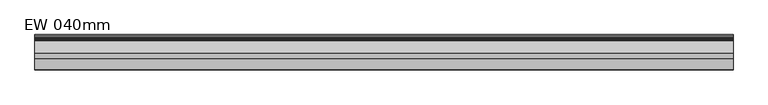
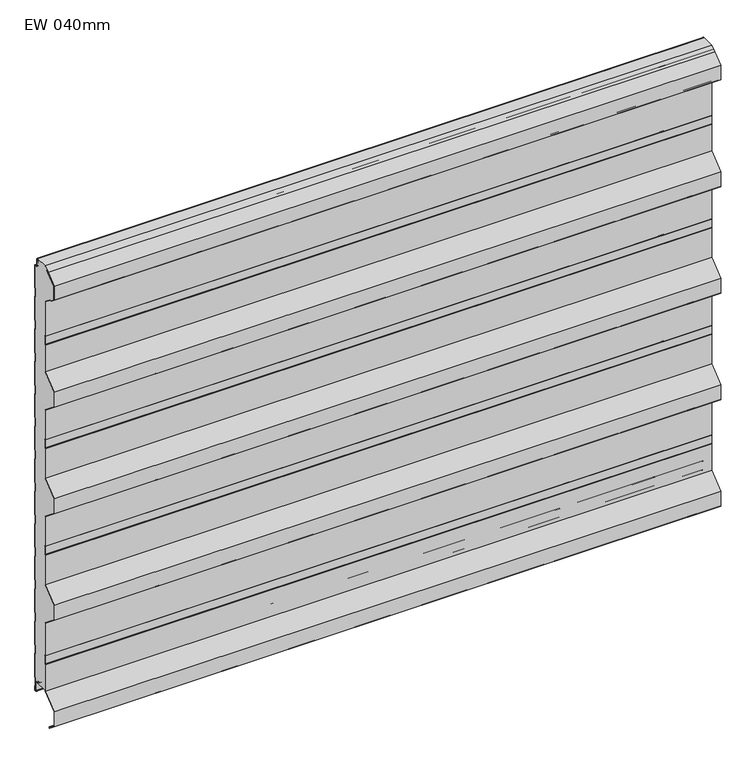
"""IFC4 building model written with IfcOpenShell, lengths in millimetres: plate geometry, KIP-MEX-KC-R19-CP-EW-SL : EW 040mm."""

from ifc_helpers import new_model, si_unit, point, frame, frame_2d, origin, place, context, project, spatial, polyline, circle_curve, trimmed, segment, composite_curve, outline, extrude, source, transform, mapped, element, save
from ifc_brep_helpers import plane_surface, cylinder_surface, revolved_surface, advanced_brep


def ew_040mm_b991c328(model_context):
    return source(origin(), model_context, "Body", "SolidModel", [
        advanced_brep(
        [(-740.0, -50.0327477, 989.051258), (-740.0, -45.6292245, 991.4166419), (-740.0, -46.1011177, 992.2982989), (-740.0, -50.5823669, 989.8911639), (-740.0, -39.7971296, 998.3652789), (-740.0, -11.2514375, 998.3666923), (-740.0, -13.6351997, 996.0840542), (-740.0, -14.1562355, 990.2938452), (-740.0, -13.178913, 990.2059002), (-740.0, -12.6629632, 995.9395891), (-740.0, -10.8760369, 997.3642752), (-740.0, -8.8936988, 995.9342793), (-740.0, -7.4885937, 979.8720443), (-740.0, -4.5000049, 977.1334803), (-740.0, -1.0, 977.1334803), (-740.0, -1.0, 924.1786391), (-740.0, -2.2002307, 922.7930062), (-740.0, -2.2002307, 903.4178399), (-740.0, -1.0, 902.0322069), (-740.0, -1.0, 847.9787915), (-740.0, -2.2002307, 846.5931586), (-740.0, -2.2002307, 827.2179923), (-740.0, -1.0, 825.8323593), (-740.0, -1.0, 771.7789439), (-740.0, -2.2002307, 770.393311), (-740.0, -2.2002307, 751.0181447), (-740.0, -1.0, 749.6325117), (-740.0, -1.0, 695.5790963), (-740.0, -2.2002307, 694.1934634), (-740.0, -2.2002307, 674.8182971), (-740.0, -1.0, 673.4326641), (-740.0, -1.0, 619.3792487), (-740.0, -2.2002307, 617.9936158), (-740.0, -2.2002307, 598.6184495), (-740.0, -1.0, 597.2328165), (-740.0, -1.0, 543.1794011), (-740.0, -2.2002307, 541.7937682), (-740.0, -2.2002307, 522.4186019), (-740.0, -1.0, 521.0329689), (-740.0, -1.0, 466.9795535), (-740.0, -2.2002307, 465.5939206), (-740.0, -2.2002307, 446.2187543), (-740.0, -1.0, 444.8331213), (-740.0, -1.0, 390.7797059), (-740.0, -2.2002307, 389.394073), (-740.0, -2.2002307, 370.0189067), (-740.0, -1.0, 368.6332737), (-740.0, -1.0, 314.5798583), (-740.0, -2.2002307, 313.1942254), (-740.0, -2.2002307, 293.8190591), (-740.0, -1.0, 292.4334261), (-740.0, -1.0, 238.3800107), (-740.0, -2.2002307, 236.9943778), (-740.0, -2.2002307, 217.6192115), (-740.0, -1.0, 216.2335785), (-740.0, -1.0, 162.1801631), (-740.0, -2.2002307, 160.7945302), (-740.0, -2.2002307, 141.4193639), (-740.0, -1.0, 140.0337309), (-740.0, -1.0, 85.9803155), (-740.0, -2.2002307, 84.5946826), (-740.0, -2.2002307, 65.2195163), (-740.0, -1.0, 63.8338833), (-740.0, -1.0, 9.7804679), (-740.0, -2.2002307, 8.394835), (-740.0, -2.2002307, -10.9803313), (-740.0, -0.9999916, -12.365974), (-740.0, -0.9999916, -20.8675386), (-740.0, -2.4999198, -20.8675386), (-740.0, -4.9998241, -18.3676343), (-740.0, -4.9998241, -0.3670493), (-740.0, -7.998082, 2.6333088), (-740.0, -11.5943952, 2.6333088), (-740.0, -13.0725686, 3.8746028), (-740.0, -13.6943971, 7.4169376), (-740.0, -14.6793372, 7.2440392), (-740.0, -14.0575086, 3.7017037), (-740.0, -11.5958694, 1.6333077), (-740.0, -39.0, 1.6333077), (-740.0, -39.0, 62.1559418), (-740.0, -37.9999989, 63.5702249), (-740.0, -37.9999989, 82.7777465), (-740.0, -39.0, 84.1920296), (-740.0, -39.0, 160.6910066), (-740.0, -74.000038, 188.1910365), (-740.0, -74.000038, 222.2190039), (-740.0, -39.0, 249.7190337), (-740.0, -39.0, 319.1871119), (-740.0, -37.9999989, 320.601395), (-740.0, -37.9999989, 339.8089167), (-740.0, -39.0, 341.2231997), (-740.0, -39.0, 410.6912779), (-740.0, -74.000038, 438.1913078), (-740.0, -74.000038, 472.2192752), (-740.0, -39.0, 499.719305), (-740.0, -39.0, 569.1090864), (-740.0, -37.9999989, 570.1732653), (-740.0, -37.9999989, 589.809188), (-740.0, -39.0, 591.2234711), (-740.0, -39.0, 660.6915492), (-740.0, -74.000038, 688.1915791), (-740.0, -74.000038, 722.2195465), (-740.0, -39.0, 749.7195763), (-740.0, -39.0, 812.1567557), (-740.0, -37.9999989, 813.5710388), (-740.0, -37.9999989, 832.7785605), (-740.0, -39.0, 834.1928435), (-740.0, -39.0, 914.6918249), (-740.0, -59.3814311, 930.7058064), (-740.0, -63.199617, 930.7058064), (-740.0, -73.0000369, 938.4061363), (-740.0, -73.0000369, 971.0055308), (740.0, -50.0327477, 989.051258), (740.0, -73.0000369, 971.0055308), (740.0, -73.0000369, 938.4061363), (740.0, -63.199617, 930.7058064), (740.0, -59.3814311, 930.7058064), (740.0, -39.0, 914.6918249), (740.0, -39.0, 834.1928435), (740.0, -37.9999989, 832.7785605), (740.0, -37.9999989, 813.5710388), (740.0, -39.0, 812.1567557), (740.0, -39.0, 749.7195763), (740.0, -74.000038, 722.2195465), (740.0, -74.000038, 688.1915791), (740.0, -39.0, 660.6915492), (740.0, -39.0, 591.2234711), (740.0, -37.9999989, 589.809188), (740.0, -37.9999989, 570.1732653), (740.0, -39.0, 569.1090864), (740.0, -39.0, 499.719305), (740.0, -74.000038, 472.2192752), (740.0, -74.000038, 438.1913078), (740.0, -39.0, 410.6912779), (740.0, -39.0, 341.2231997), (740.0, -37.9999989, 339.8089167), (740.0, -37.9999989, 320.601395), (740.0, -39.0, 319.1871119), (740.0, -39.0, 249.7190337), (740.0, -74.000038, 222.2190039), (740.0, -74.000038, 188.1910365), (740.0, -39.0, 160.6910066), (740.0, -39.0, 84.1920296), (740.0, -37.9999989, 82.7777465), (740.0, -37.9999989, 63.5702249), (740.0, -39.0, 62.1559418), (740.0, -39.0, 1.6333077), (740.0, -11.5958694, 1.6333077), (740.0, -14.0575086, 3.7017037), (740.0, -14.6793372, 7.2440392), (740.0, -13.6943971, 7.4169376), (740.0, -13.0725686, 3.8746028), (740.0, -11.5943952, 2.6333088), (740.0, -7.998082, 2.6333088), (740.0, -4.9998241, -0.3670493), (740.0, -4.9998241, -18.3676343), (740.0, -2.4999198, -20.8675386), (740.0, -0.9999916, -20.8675386), (740.0, -0.9999916, -12.365974), (740.0, -2.2002307, -10.9803313), (740.0, -2.2002307, 8.394835), (740.0, -1.0, 9.7804679), (740.0, -1.0, 63.8338833), (740.0, -2.2002307, 65.2195163), (740.0, -2.2002307, 84.5946826), (740.0, -1.0, 85.9803155), (740.0, -1.0, 140.0337309), (740.0, -2.2002307, 141.4193639), (740.0, -2.2002307, 160.7945302), (740.0, -1.0, 162.1801631), (740.0, -1.0, 216.2335785), (740.0, -2.2002307, 217.6192115), (740.0, -2.2002307, 236.9943778), (740.0, -1.0, 238.3800107), (740.0, -1.0, 292.4334261), (740.0, -2.2002307, 293.8190591), (740.0, -2.2002307, 313.1942254), (740.0, -1.0, 314.5798583), (740.0, -1.0, 368.6332737), (740.0, -2.2002307, 370.0189067), (740.0, -2.2002307, 389.394073), (740.0, -1.0, 390.7797059), (740.0, -1.0, 444.8331213), (740.0, -2.2002307, 446.2187543), (740.0, -2.2002307, 465.5939206), (740.0, -1.0, 466.9795535), (740.0, -1.0, 521.0329689), (740.0, -2.2002307, 522.4186019), (740.0, -2.2002307, 541.7937682), (740.0, -1.0, 543.1794011), (740.0, -1.0, 597.2328165), (740.0, -2.2002307, 598.6184495), (740.0, -2.2002307, 617.9936158), (740.0, -1.0, 619.3792487), (740.0, -1.0, 673.4326641), (740.0, -2.2002307, 674.8182971), (740.0, -2.2002307, 694.1934634), (740.0, -1.0, 695.5790963), (740.0, -1.0, 749.6325117), (740.0, -2.2002307, 751.0181447), (740.0, -2.2002307, 770.393311), (740.0, -1.0, 771.7789439), (740.0, -1.0, 825.8323593), (740.0, -2.2002307, 827.2179923), (740.0, -2.2002307, 846.5931586), (740.0, -1.0, 847.9787915), (740.0, -1.0, 902.0322069), (740.0, -2.2002307, 903.4178399), (740.0, -2.2002307, 922.7930062), (740.0, -1.0, 924.1786391), (740.0, -1.0, 977.1334803), (740.0, -4.5000049, 977.1334803), (740.0, -7.4885937, 979.8720443), (740.0, -8.8936988, 995.9342793), (740.0, -10.8760369, 997.3642752), (740.0, -12.6629632, 995.9395891), (740.0, -13.178913, 990.2059002), (740.0, -14.1562355, 990.2938452), (740.0, -13.6351997, 996.0840542), (740.0, -11.2514375, 998.3666923), (740.0, -39.7971296, 998.3652789), (740.0, -50.5823669, 989.8911639), (740.0, -46.1011177, 992.2982989), (740.0, -45.6292245, 991.4166419)],
        [
            (0, 1),
            (1, 2),
            (2, 3),
            (3, 4),
            (4, 5),
            (5, 6, circle_curve(frame((-740.0, -10.8441969, 995.5554081), z_axis=(1.0, 0.0, 0.0), x_axis=(0.0, -1.0, 0.0)), 2.8406273)),
            (6, 7),
            (7, 8),
            (8, 9),
            (9, 10, circle_curve(frame((-740.0, -10.8991179, 995.560247), z_axis=(-1.0, 0.0, 0.0), x_axis=(0.0, -1.0, 0.0)), 1.8041759)),
            (10, 11, circle_curve(frame((-740.0, -10.6928483, 995.5292107), z_axis=(-1.0, 0.0, 0.0), x_axis=(0.0, -1.0, 0.0)), 1.8441854)),
            (11, 12),
            (12, 13, circle_curve(frame((-740.0, -4.5000049, 980.1334825), z_axis=(1.0, 0.0, 0.0), x_axis=(0.0, -1.0, 0.0)), 3.0000022)),
            (13, 14),
            (14, 15),
            (15, 16),
            (16, 17),
            (17, 18),
            (18, 19),
            (19, 20),
            (20, 21),
            (21, 22),
            (22, 23),
            (23, 24),
            (24, 25),
            (25, 26),
            (26, 27),
            (27, 28),
            (28, 29),
            (29, 30),
            (30, 31),
            (31, 32),
            (32, 33),
            (33, 34),
            (34, 35),
            (35, 36),
            (36, 37),
            (37, 38),
            (38, 39),
            (39, 40),
            (40, 41),
            (41, 42),
            (42, 43),
            (43, 44),
            (44, 45),
            (45, 46),
            (46, 47),
            (47, 48),
            (48, 49),
            (49, 50),
            (50, 51),
            (51, 52),
            (52, 53),
            (53, 54),
            (54, 55),
            (55, 56),
            (56, 57),
            (57, 58),
            (58, 59),
            (59, 60),
            (60, 61),
            (61, 62),
            (62, 63),
            (63, 64),
            (64, 65),
            (65, 66),
            (66, 67),
            (67, 68),
            (68, 69, circle_curve(frame((-740.0, -2.4999198, -18.3676343), z_axis=(-1.0, 0.0, 0.0), x_axis=(0.0, -1.0, 0.0)), 2.4999043)),
            (69, 70),
            (70, 71, circle_curve(frame((-740.0, -8.0001829, -0.3670493), z_axis=(1.0, 0.0, 0.0), x_axis=(0.0, -1.0, 0.0)), 3.0003589)),
            (71, 72),
            (72, 73, circle_curve(frame((-740.0, -11.5943952, 4.1340843), z_axis=(-1.0, 0.0, 0.0), x_axis=(0.0, -1.0, 0.0)), 1.5007755)),
            (73, 74),
            (74, 75),
            (75, 76),
            (76, 77, circle_curve(frame((-740.0, -11.5943948, 4.1340836), z_axis=(1.0, 0.0, 0.0), x_axis=(0.0, -1.0, 0.0)), 2.5007762)),
            (77, 78),
            (78, 79),
            (79, 80),
            (80, 81),
            (81, 82),
            (82, 83),
            (83, 84),
            (84, 85),
            (85, 86),
            (86, 87),
            (87, 88),
            (88, 89),
            (89, 90),
            (90, 91),
            (91, 92),
            (92, 93),
            (93, 94),
            (94, 95),
            (95, 96),
            (96, 97),
            (97, 98),
            (98, 99),
            (99, 100),
            (100, 101),
            (101, 102),
            (102, 103),
            (103, 104),
            (104, 105),
            (105, 106),
            (106, 107),
            (107, 108),
            (108, 109),
            (109, 110),
            (110, 111),
            (111, 0),
            (112, 113),
            (113, 114),
            (114, 115),
            (115, 116),
            (116, 117),
            (117, 118),
            (118, 119),
            (119, 120),
            (120, 121),
            (121, 122),
            (122, 123),
            (123, 124),
            (124, 125),
            (125, 126),
            (126, 127),
            (127, 128),
            (128, 129),
            (129, 130),
            (130, 131),
            (131, 132),
            (132, 133),
            (133, 134),
            (134, 135),
            (135, 136),
            (136, 137),
            (137, 138),
            (138, 139),
            (139, 140),
            (140, 141),
            (141, 142),
            (142, 143),
            (143, 144),
            (144, 145),
            (145, 146),
            (146, 147),
            (147, 148, circle_curve(frame((740.0, -11.5943948, 4.1340836), z_axis=(-1.0, 0.0, 0.0), x_axis=(0.0, -1.0, 0.0)), 2.5007762)),
            (148, 149),
            (149, 150),
            (150, 151),
            (151, 152, circle_curve(frame((740.0, -11.5943952, 4.1340843), z_axis=(1.0, 0.0, 0.0), x_axis=(0.0, -1.0, 0.0)), 1.5007755)),
            (152, 153),
            (153, 154, circle_curve(frame((740.0, -8.0001829, -0.3670493), z_axis=(-1.0, 0.0, 0.0), x_axis=(0.0, -1.0, 0.0)), 3.0003589)),
            (154, 155),
            (155, 156, circle_curve(frame((740.0, -2.4999198, -18.3676343), z_axis=(1.0, 0.0, 0.0), x_axis=(0.0, -1.0, 0.0)), 2.4999043)),
            (156, 157),
            (157, 158),
            (158, 159),
            (159, 160),
            (160, 161),
            (161, 162),
            (162, 163),
            (163, 164),
            (164, 165),
            (165, 166),
            (166, 167),
            (167, 168),
            (168, 169),
            (169, 170),
            (170, 171),
            (171, 172),
            (172, 173),
            (173, 174),
            (174, 175),
            (175, 176),
            (176, 177),
            (177, 178),
            (178, 179),
            (179, 180),
            (180, 181),
            (181, 182),
            (182, 183),
            (183, 184),
            (184, 185),
            (185, 186),
            (186, 187),
            (187, 188),
            (188, 189),
            (189, 190),
            (190, 191),
            (191, 192),
            (192, 193),
            (193, 194),
            (194, 195),
            (195, 196),
            (196, 197),
            (197, 198),
            (198, 199),
            (199, 200),
            (200, 201),
            (201, 202),
            (202, 203),
            (203, 204),
            (204, 205),
            (205, 206),
            (206, 207),
            (207, 208),
            (208, 209),
            (209, 210),
            (210, 211),
            (211, 212, circle_curve(frame((740.0, -4.5000049, 980.1334825), z_axis=(-1.0, 0.0, 0.0), x_axis=(0.0, -1.0, 0.0)), 3.0000022)),
            (212, 213),
            (213, 214, circle_curve(frame((740.0, -10.6928483, 995.5292107), z_axis=(1.0, 0.0, 0.0), x_axis=(0.0, -1.0, 0.0)), 1.8441854)),
            (214, 215, circle_curve(frame((740.0, -10.8991179, 995.560247), z_axis=(1.0, 0.0, 0.0), x_axis=(0.0, -1.0, 0.0)), 1.8041759)),
            (215, 216),
            (216, 217),
            (217, 218),
            (218, 219, circle_curve(frame((740.0, -10.8441969, 995.5554081), z_axis=(-1.0, 0.0, 0.0), x_axis=(0.0, -1.0, 0.0)), 2.8406273)),
            (219, 220),
            (220, 221),
            (221, 222),
            (222, 223),
            (223, 112),
            (0, 112),
            (223, 1),
            (111, 113),
            (110, 114),
            (109, 115),
            (108, 116),
            (107, 117),
            (106, 118),
            (105, 119),
            (104, 120),
            (103, 121),
            (102, 122),
            (101, 123),
            (100, 124),
            (99, 125),
            (98, 126),
            (97, 127),
            (96, 128),
            (95, 129),
            (94, 130),
            (93, 131),
            (92, 132),
            (91, 133),
            (90, 134),
            (89, 135),
            (88, 136),
            (87, 137),
            (86, 138),
            (85, 139),
            (84, 140),
            (83, 141),
            (82, 142),
            (81, 143),
            (80, 144),
            (79, 145),
            (78, 146),
            (2, 222),
            (221, 3),
            (220, 4),
            (219, 5),
            (77, 147),
            (73, 151),
            (150, 74),
            (72, 152),
            (71, 153),
            (70, 154),
            (69, 155),
            (68, 156),
            (67, 157),
            (13, 211),
            (210, 14),
            (12, 212),
            (11, 213),
            (10, 214),
            (9, 215),
            (8, 216),
            (7, 217),
            (6, 218),
            (76, 148),
            (75, 149),
            (66, 158),
            (65, 159),
            (64, 160),
            (63, 161),
            (62, 162),
            (61, 163),
            (60, 164),
            (59, 165),
            (58, 166),
            (57, 167),
            (56, 168),
            (55, 169),
            (54, 170),
            (53, 171),
            (52, 172),
            (51, 173),
            (50, 174),
            (49, 175),
            (48, 176),
            (47, 177),
            (46, 178),
            (45, 179),
            (44, 180),
            (43, 181),
            (42, 182),
            (41, 183),
            (40, 184),
            (39, 185),
            (38, 186),
            (37, 187),
            (36, 188),
            (35, 189),
            (34, 190),
            (33, 191),
            (32, 192),
            (31, 193),
            (30, 194),
            (29, 195),
            (28, 196),
            (27, 197),
            (26, 198),
            (25, 199),
            (24, 200),
            (23, 201),
            (22, 202),
            (21, 203),
            (20, 204),
            (19, 205),
            (18, 206),
            (17, 207),
            (16, 208),
            (15, 209),
        ],
        [
            plane_surface(frame((-740.0, -39.0, 500.0), z_axis=(-1.0, 0.0, 0.0), x_axis=(0.0, -1.0, 0.0))),
            plane_surface(frame((740.0, -39.0, 500.0), z_axis=(1.0, 0.0, 0.0), x_axis=(0.0, -1.0, 0.0))),
            plane_surface(frame((-740.0, -45.6292245, 991.4166419), z_axis=(0.0, -0.4732087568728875, 0.8809503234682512), x_axis=(1.0, 0.0, 0.0))),
            plane_surface(frame((-740.0, -50.0327477, 989.051258), z_axis=(0.0, -0.6178215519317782, 0.7863183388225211), x_axis=(1.0, 0.0, 0.0))),
            plane_surface(frame((-740.0, -73.0000369, 971.0055308), z_axis=(0.0, -1.0, 0.0), x_axis=(1.0, 0.0, 0.0))),
            plane_surface(frame((-740.0, -73.0000369, 938.4061363), z_axis=(0.0, -0.6178215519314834, -0.7863183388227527), x_axis=(1.0, 0.0, 0.0))),
            plane_surface(frame((-740.0, -63.199617, 930.7058064), z_axis=(0.0, 0.0, -1.0), x_axis=(1.0, 0.0, 0.0))),
            plane_surface(frame((-740.0, -59.3814311, 930.7058064), z_axis=(0.0, -0.6178215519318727, -0.786318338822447), x_axis=(1.0, 0.0, 0.0))),
            plane_surface(frame((-740.0, -39.0, 914.6918249), z_axis=(0.0, -1.0, 0.0), x_axis=(1.0, 0.0, 0.0))),
            plane_surface(frame((-740.0, -39.0, 834.1928435), z_axis=(0.0, -0.8165096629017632, -0.577331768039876), x_axis=(1.0, 0.0, 0.0))),
            plane_surface(frame((-740.0, -37.9999989, 832.7785605), z_axis=(0.0, -1.0, 0.0), x_axis=(1.0, 0.0, 0.0))),
            plane_surface(frame((-740.0, -37.9999989, 813.5710388), z_axis=(0.0, -0.816509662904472, 0.5773317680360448), x_axis=(1.0, 0.0, 0.0))),
            plane_surface(frame((-740.0, -39.0, 812.1567557), z_axis=(0.0, -1.0, 0.0), x_axis=(1.0, 0.0, 0.0))),
            plane_surface(frame((-740.0, -39.0, 749.7195763), z_axis=(0.0, -0.6178215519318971, 0.7863183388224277), x_axis=(1.0, 0.0, 0.0))),
            plane_surface(frame((-740.0, -74.000038, 722.2195465), z_axis=(0.0, -1.0, 0.0), x_axis=(1.0, 0.0, 0.0))),
            plane_surface(frame((-740.0, -74.000038, 688.1915791), z_axis=(0.0, -0.6178215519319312, -0.7863183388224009), x_axis=(1.0, 0.0, 0.0))),
            plane_surface(frame((-740.0, -39.0, 660.6915492), z_axis=(0.0, -1.0, 0.0), x_axis=(1.0, 0.0, 0.0))),
            plane_surface(frame((-740.0, -39.0, 591.2234711), z_axis=(0.0, -0.8165096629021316, -0.577331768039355), x_axis=(1.0, 0.0, 0.0))),
            plane_surface(frame((-740.0, -37.9999989, 589.809188), z_axis=(0.0, -1.0, 0.0), x_axis=(1.0, 0.0, 0.0))),
            plane_surface(frame((-740.0, -37.9999989, 570.1732653), z_axis=(0.0, -0.7287394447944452, 0.6847910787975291), x_axis=(1.0, 0.0, 0.0))),
            plane_surface(frame((-740.0, -39.0, 569.1090864), z_axis=(0.0, -1.0, 0.0), x_axis=(1.0, 0.0, 0.0))),
            plane_surface(frame((-740.0, -39.0, 499.719305), z_axis=(0.0, -0.6178215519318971, 0.7863183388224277), x_axis=(1.0, 0.0, 0.0))),
            plane_surface(frame((-740.0, -74.000038, 472.2192752), z_axis=(0.0, -1.0, 0.0), x_axis=(1.0, 0.0, 0.0))),
            plane_surface(frame((-740.0, -74.000038, 438.1913078), z_axis=(0.0, -0.6178215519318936, -0.7863183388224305), x_axis=(1.0, 0.0, 0.0))),
            plane_surface(frame((-740.0, -39.0, 410.6912779), z_axis=(0.0, -1.0, 0.0), x_axis=(1.0, 0.0, 0.0))),
            plane_surface(frame((-740.0, -39.0, 341.2231997), z_axis=(0.0, -0.8165096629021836, -0.5773317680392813), x_axis=(1.0, 0.0, 0.0))),
            plane_surface(frame((-740.0, -37.9999989, 339.8089167), z_axis=(0.0, -1.0, 0.0), x_axis=(1.0, 0.0, 0.0))),
            plane_surface(frame((-740.0, -37.9999989, 320.601395), z_axis=(0.0, -0.8165096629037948, 0.5773317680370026), x_axis=(1.0, 0.0, 0.0))),
            plane_surface(frame((-740.0, -39.0, 319.1871119), z_axis=(0.0, -1.0, 0.0), x_axis=(1.0, 0.0, 0.0))),
            plane_surface(frame((-740.0, -39.0, 249.7190337), z_axis=(0.0, -0.6178215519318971, 0.7863183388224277), x_axis=(1.0, 0.0, 0.0))),
            plane_surface(frame((-740.0, -74.000038, 222.2190039), z_axis=(0.0, -1.0, 0.0), x_axis=(1.0, 0.0, 0.0))),
            plane_surface(frame((-740.0, -74.000038, 188.1910365), z_axis=(0.0, -0.6178215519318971, -0.7863183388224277), x_axis=(1.0, 0.0, 0.0))),
            plane_surface(frame((-740.0, -39.0, 160.6910066), z_axis=(0.0, -1.0, 0.0), x_axis=(1.0, 0.0, 0.0))),
            plane_surface(frame((-740.0, -39.0, 84.1920296), z_axis=(0.0, -0.8165096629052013, -0.5773317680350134), x_axis=(1.0, 0.0, 0.0))),
            plane_surface(frame((-740.0, -37.9999989, 82.7777465), z_axis=(0.0, -1.0, 0.0), x_axis=(1.0, 0.0, 0.0))),
            plane_surface(frame((-740.0, -37.9999989, 63.5702249), z_axis=(0.0, -0.8165096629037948, 0.5773317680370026), x_axis=(1.0, 0.0, 0.0))),
            plane_surface(frame((-740.0, -39.0, 62.1559418), z_axis=(0.0, -1.0, 0.0), x_axis=(1.0, 0.0, 0.0))),
            plane_surface(frame((-740.0, -50.5823669, 989.8911639), z_axis=(0.0, 0.47320875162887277, -0.8809503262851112), x_axis=(1.0, 0.0, 0.0))),
            plane_surface(frame((-740.0, -46.1011177, 992.2982989), z_axis=(0.0, -0.8816559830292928, -0.47189270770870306), x_axis=(1.0, 0.0, 0.0))),
            plane_surface(frame((-740.0, -39.7971296, 998.3652789), z_axis=(0.0, -0.617821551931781, 0.786318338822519), x_axis=(1.0, 0.0, 0.0))),
            plane_surface(frame((-740.0, -34.8065083, 998.3652789), z_axis=(0.0, 0.0, 1.0), x_axis=(1.0, 0.0, 0.0))),
            plane_surface(frame((-740.0, -39.0, 1.6333077), z_axis=(0.0, 0.0, -1.0), x_axis=(1.0, 0.0, 0.0))),
            plane_surface(frame((-740.0, -13.6943971, 7.4169376), z_axis=(0.0, -0.9849396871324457, -0.17289827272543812), x_axis=(1.0, 0.0, 0.0))),
            cylinder_surface(frame((-740.0, -11.5943952, 4.1340843), z_axis=(-1.0, 0.0, 0.0), x_axis=(0.0, -1.0, 0.0)), 1.5007755),
            plane_surface(frame((-740.0, -11.5943952, 2.6333088), z_axis=(0.0, 0.0, -1.0), x_axis=(1.0, 0.0, 0.0))),
            revolved_surface(polyline([(740.0, -11.0005418, -0.3670493), (-740.0, -11.0005418, -0.3670493)]), (-740.0, -8.0001829, -0.3670493), (1.0, 0.0, 0.0)),
            plane_surface(frame((-740.0, -4.9998241, -0.3670493), z_axis=(0.0, -1.0, 0.0), x_axis=(1.0, 0.0, 0.0))),
            cylinder_surface(frame((-740.0, -2.4999198, -18.3676343), z_axis=(-1.0, 0.0, 0.0), x_axis=(0.0, -1.0, 0.0)), 2.4999043),
            plane_surface(frame((-740.0, -2.4999198, -20.8675386), z_axis=(0.0, 0.0, -1.0), x_axis=(1.0, 0.0, 0.0))),
            plane_surface(frame((-740.0, -1.0, 977.1334803), z_axis=(0.0, 0.0, 1.0), x_axis=(1.0, 0.0, 0.0))),
            revolved_surface(polyline([(740.0, -7.5000071, 980.1334825), (-740.0, -7.5000071, 980.1334825)]), (-740.0, -4.5000049, 980.1334825), (1.0, 0.0, 0.0)),
            plane_surface(frame((-740.0, -7.4885937, 979.8720443), z_axis=(0.0, 0.9961955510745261, 0.08714599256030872), x_axis=(1.0, 0.0, 0.0))),
            cylinder_surface(frame((-740.0, -10.6928483, 995.5292107), z_axis=(-1.0, 0.0, 0.0), x_axis=(0.0, -1.0, 0.0)), 1.8441854),
            cylinder_surface(frame((-740.0, -10.8991179, 995.560247), z_axis=(-1.0, 0.0, 0.0), x_axis=(0.0, -1.0, 0.0)), 1.8041759),
            plane_surface(frame((-740.0, -12.6629632, 995.9395891), z_axis=(0.0, -0.9959757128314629, 0.08962354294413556), x_axis=(1.0, 0.0, 0.0))),
            plane_surface(frame((-740.0, -13.178913, 990.2059002), z_axis=(0.0, 0.0896235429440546, 0.9959757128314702), x_axis=(1.0, 0.0, 0.0))),
            plane_surface(frame((-740.0, -14.1562355, 990.2938452), z_axis=(0.0, 0.9959757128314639, -0.08962354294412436), x_axis=(1.0, 0.0, 0.0))),
            revolved_surface(polyline([(740.0, -13.6848242, 995.5554081), (-740.0, -13.6848242, 995.5554081)]), (-740.0, -10.8441969, 995.5554081), (1.0, 0.0, 0.0)),
            revolved_surface(polyline([(740.0, -14.095171, 4.1340836), (-740.0, -14.095171, 4.1340836)]), (-740.0, -11.5943948, 4.1340836), (1.0, 0.0, 0.0)),
            plane_surface(frame((-740.0, -14.0575086, 3.7017037), z_axis=(0.0, 0.9849396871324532, 0.17289827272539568), x_axis=(1.0, 0.0, 0.0))),
            plane_surface(frame((-740.0, -14.6793372, 7.2440392), z_axis=(0.0, 0.17289827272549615, -0.9849396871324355), x_axis=(1.0, 0.0, 0.0))),
            plane_surface(frame((-740.0, -0.9999916, -20.8675386), z_axis=(0.0, 1.0, 0.0), x_axis=(1.0, 0.0, 0.0))),
            plane_surface(frame((-740.0, -0.9999916, -12.365974), z_axis=(0.0, 0.7558648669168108, 0.6547276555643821), x_axis=(1.0, 0.0, 0.0))),
            plane_surface(frame((-740.0, -2.2002307, -10.9803313), z_axis=(0.0, 1.0, 0.0), x_axis=(1.0, 0.0, 0.0))),
            plane_surface(frame((-740.0, -2.2002307, 8.394835), z_axis=(0.0, 0.7558648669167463, -0.6547276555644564), x_axis=(1.0, 0.0, 0.0))),
            plane_surface(frame((-740.0, -1.0, 9.7804679), z_axis=(0.0, 1.0, 0.0), x_axis=(1.0, 0.0, 0.0))),
            plane_surface(frame((-740.0, -1.0, 63.8338833), z_axis=(0.0, 0.7558648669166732, 0.6547276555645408), x_axis=(1.0, 0.0, 0.0))),
            plane_surface(frame((-740.0, -2.2002307, 65.2195163), z_axis=(0.0, 1.0, 0.0), x_axis=(1.0, 0.0, 0.0))),
            plane_surface(frame((-740.0, -2.2002307, 84.5946826), z_axis=(0.0, 0.7558648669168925, -0.6547276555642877), x_axis=(1.0, 0.0, 0.0))),
            plane_surface(frame((-740.0, -1.0, 85.9803155), z_axis=(0.0, 1.0, 0.0), x_axis=(1.0, 0.0, 0.0))),
            plane_surface(frame((-740.0, -1.0, 140.0337309), z_axis=(0.0, 0.7558648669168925, 0.6547276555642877), x_axis=(1.0, 0.0, 0.0))),
            plane_surface(frame((-740.0, -2.2002307, 141.4193639), z_axis=(0.0, 1.0, 0.0), x_axis=(1.0, 0.0, 0.0))),
            plane_surface(frame((-740.0, -2.2002307, 160.7945302), z_axis=(0.0, 0.7558648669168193, -0.6547276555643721), x_axis=(1.0, 0.0, 0.0))),
            plane_surface(frame((-740.0, -1.0, 162.1801631), z_axis=(0.0, 1.0, 0.0), x_axis=(1.0, 0.0, 0.0))),
            plane_surface(frame((-740.0, -1.0, 216.2335785), z_axis=(0.0, 0.7558648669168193, 0.6547276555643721), x_axis=(1.0, 0.0, 0.0))),
            plane_surface(frame((-740.0, -2.2002307, 217.6192115), z_axis=(0.0, 1.0, 0.0), x_axis=(1.0, 0.0, 0.0))),
            plane_surface(frame((-740.0, -2.2002307, 236.9943778), z_axis=(0.0, 0.7558648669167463, -0.6547276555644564), x_axis=(1.0, 0.0, 0.0))),
            plane_surface(frame((-740.0, -1.0, 238.3800107), z_axis=(0.0, 1.0, 0.0), x_axis=(1.0, 0.0, 0.0))),
            plane_surface(frame((-740.0, -1.0, 292.4334261), z_axis=(0.0, 0.7558648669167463, 0.6547276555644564), x_axis=(1.0, 0.0, 0.0))),
            plane_surface(frame((-740.0, -2.2002307, 293.8190591), z_axis=(0.0, 1.0, 0.0), x_axis=(1.0, 0.0, 0.0))),
            plane_surface(frame((-740.0, -2.2002307, 313.1942254), z_axis=(0.0, 0.7558648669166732, -0.6547276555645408), x_axis=(1.0, 0.0, 0.0))),
            plane_surface(frame((-740.0, -1.0, 314.5798583), z_axis=(0.0, 1.0, 0.0), x_axis=(1.0, 0.0, 0.0))),
            plane_surface(frame((-740.0, -1.0, 368.6332737), z_axis=(0.0, 0.7558648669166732, 0.6547276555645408), x_axis=(1.0, 0.0, 0.0))),
            plane_surface(frame((-740.0, -2.2002307, 370.0189067), z_axis=(0.0, 1.0, 0.0), x_axis=(1.0, 0.0, 0.0))),
            plane_surface(frame((-740.0, -2.2002307, 389.394073), z_axis=(0.0, 0.755864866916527, -0.6547276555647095), x_axis=(1.0, 0.0, 0.0))),
            plane_surface(frame((-740.0, -1.0, 390.7797059), z_axis=(0.0, 1.0, 0.0), x_axis=(1.0, 0.0, 0.0))),
            plane_surface(frame((-740.0, -1.0, 444.8331213), z_axis=(0.0, 0.755864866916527, 0.6547276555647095), x_axis=(1.0, 0.0, 0.0))),
            plane_surface(frame((-740.0, -2.2002307, 446.2187543), z_axis=(0.0, 1.0, 0.0), x_axis=(1.0, 0.0, 0.0))),
            plane_surface(frame((-740.0, -2.2002307, 465.5939206), z_axis=(0.0, 0.755864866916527, -0.6547276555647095), x_axis=(1.0, 0.0, 0.0))),
            plane_surface(frame((-740.0, -1.0, 466.9795535), z_axis=(0.0, 1.0, 0.0), x_axis=(1.0, 0.0, 0.0))),
            plane_surface(frame((-740.0, -1.0, 521.0329689), z_axis=(0.0, 0.755864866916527, 0.6547276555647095), x_axis=(1.0, 0.0, 0.0))),
            plane_surface(frame((-740.0, -2.2002307, 522.4186019), z_axis=(0.0, 1.0, 0.0), x_axis=(1.0, 0.0, 0.0))),
            plane_surface(frame((-740.0, -2.2002307, 541.7937682), z_axis=(0.0, 0.7558648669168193, -0.6547276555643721), x_axis=(1.0, 0.0, 0.0))),
            plane_surface(frame((-740.0, -1.0, 543.1794011), z_axis=(0.0, 1.0, 0.0), x_axis=(1.0, 0.0, 0.0))),
            plane_surface(frame((-740.0, -1.0, 597.2328165), z_axis=(0.0, 0.7558648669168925, 0.6547276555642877), x_axis=(1.0, 0.0, 0.0))),
            plane_surface(frame((-740.0, -2.2002307, 598.6184495), z_axis=(0.0, 1.0, 0.0), x_axis=(1.0, 0.0, 0.0))),
            plane_surface(frame((-740.0, -2.2002307, 617.9936158), z_axis=(0.0, 0.7558648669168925, -0.6547276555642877), x_axis=(1.0, 0.0, 0.0))),
            plane_surface(frame((-740.0, -1.0, 619.3792487), z_axis=(0.0, 1.0, 0.0), x_axis=(1.0, 0.0, 0.0))),
            plane_surface(frame((-740.0, -1.0, 673.4326641), z_axis=(0.0, 0.7558648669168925, 0.6547276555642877), x_axis=(1.0, 0.0, 0.0))),
            plane_surface(frame((-740.0, -2.2002307, 674.8182971), z_axis=(0.0, 1.0, 0.0), x_axis=(1.0, 0.0, 0.0))),
            plane_surface(frame((-740.0, -2.2002307, 694.1934634), z_axis=(0.0, 0.7558648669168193, -0.6547276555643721), x_axis=(1.0, 0.0, 0.0))),
            plane_surface(frame((-740.0, -1.0, 695.5790963), z_axis=(0.0, 1.0, 0.0), x_axis=(1.0, 0.0, 0.0))),
            plane_surface(frame((-740.0, -1.0, 749.6325117), z_axis=(0.0, 0.7558648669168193, 0.6547276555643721), x_axis=(1.0, 0.0, 0.0))),
            plane_surface(frame((-740.0, -2.2002307, 751.0181447), z_axis=(0.0, 1.0, 0.0), x_axis=(1.0, 0.0, 0.0))),
            plane_surface(frame((-740.0, -2.2002307, 770.393311), z_axis=(0.0, 0.7558648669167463, -0.6547276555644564), x_axis=(1.0, 0.0, 0.0))),
            plane_surface(frame((-740.0, -1.0, 771.7789439), z_axis=(0.0, 1.0, 0.0), x_axis=(1.0, 0.0, 0.0))),
            plane_surface(frame((-740.0, -1.0, 825.8323593), z_axis=(0.0, 0.7558648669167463, 0.6547276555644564), x_axis=(1.0, 0.0, 0.0))),
            plane_surface(frame((-740.0, -2.2002307, 827.2179923), z_axis=(0.0, 1.0, 0.0), x_axis=(1.0, 0.0, 0.0))),
            plane_surface(frame((-740.0, -2.2002307, 846.5931586), z_axis=(0.0, 0.7558648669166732, -0.6547276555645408), x_axis=(1.0, 0.0, 0.0))),
            plane_surface(frame((-740.0, -1.0, 847.9787915), z_axis=(0.0, 1.0, 0.0), x_axis=(1.0, 0.0, 0.0))),
            plane_surface(frame((-740.0, -1.0, 902.0322069), z_axis=(0.0, 0.7558648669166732, 0.6547276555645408), x_axis=(1.0, 0.0, 0.0))),
            plane_surface(frame((-740.0, -2.2002307, 903.4178399), z_axis=(0.0, 1.0, 0.0), x_axis=(1.0, 0.0, 0.0))),
            plane_surface(frame((-740.0, -2.2002307, 922.7930062), z_axis=(0.0, 0.7558648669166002, -0.6547276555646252), x_axis=(1.0, 0.0, 0.0))),
            plane_surface(frame((-740.0, -1.0, 924.1786391), z_axis=(0.0, 1.0, 0.0), x_axis=(1.0, 0.0, 0.0))),
        ],
        [
            (0, [[1, 2, 3, 4, 5, 6, 7, 8, 9, 10, 11, 12, 13, 14, 15, 16, 17, 18, 19, 20, 21, 22, 23, 24, 25, 26, 27, 28, 29, 30, 31, 32, 33, 34, 35, 36, 37, 38, 39, 40, 41, 42, 43, 44, 45, 46, 47, 48, 49, 50, 51, 52, 53, 54, 55, 56, 57, 58, 59, 60, 61, 62, 63, 64, 65, 66, 67, 68, 69, 70, 71, 72, 73, 74, 75, 76, 77, 78, 79, 80, 81, 82, 83, 84, 85, 86, 87, 88, 89, 90, 91, 92, 93, 94, 95, 96, 97, 98, 99, 100, 101, 102, 103, 104, 105, 106, 107, 108, 109, 110, 111, 112]]),
            (1, [[113, 114, 115, 116, 117, 118, 119, 120, 121, 122, 123, 124, 125, 126, 127, 128, 129, 130, 131, 132, 133, 134, 135, 136, 137, 138, 139, 140, 141, 142, 143, 144, 145, 146, 147, 148, 149, 150, 151, 152, 153, 154, 155, 156, 157, 158, 159, 160, 161, 162, 163, 164, 165, 166, 167, 168, 169, 170, 171, 172, 173, 174, 175, 176, 177, 178, 179, 180, 181, 182, 183, 184, 185, 186, 187, 188, 189, 190, 191, 192, 193, 194, 195, 196, 197, 198, 199, 200, 201, 202, 203, 204, 205, 206, 207, 208, 209, 210, 211, 212, 213, 214, 215, 216, 217, 218, 219, 220, 221, 222, 223, 224]]),
            (2, [[225, -224, 226, -1]]),
            (3, [[227, -113, -225, -112]]),
            (4, [[228, -114, -227, -111]]),
            (5, [[229, -115, -228, -110]]),
            (6, [[230, -116, -229, -109]]),
            (7, [[231, -117, -230, -108]]),
            (8, [[232, -118, -231, -107]]),
            (9, [[233, -119, -232, -106]]),
            (10, [[234, -120, -233, -105]]),
            (11, [[235, -121, -234, -104]]),
            (12, [[236, -122, -235, -103]]),
            (13, [[237, -123, -236, -102]]),
            (14, [[238, -124, -237, -101]]),
            (15, [[239, -125, -238, -100]]),
            (16, [[240, -126, -239, -99]]),
            (17, [[241, -127, -240, -98]]),
            (18, [[242, -128, -241, -97]]),
            (19, [[243, -129, -242, -96]]),
            (20, [[244, -130, -243, -95]]),
            (21, [[245, -131, -244, -94]]),
            (22, [[246, -132, -245, -93]]),
            (23, [[247, -133, -246, -92]]),
            (24, [[248, -134, -247, -91]]),
            (25, [[249, -135, -248, -90]]),
            (26, [[250, -136, -249, -89]]),
            (27, [[251, -137, -250, -88]]),
            (28, [[252, -138, -251, -87]]),
            (29, [[253, -139, -252, -86]]),
            (30, [[254, -140, -253, -85]]),
            (31, [[255, -141, -254, -84]]),
            (32, [[256, -142, -255, -83]]),
            (33, [[257, -143, -256, -82]]),
            (34, [[258, -144, -257, -81]]),
            (35, [[259, -145, -258, -80]]),
            (36, [[260, -146, -259, -79]]),
            (37, [[261, -222, 262, -3]]),
            (38, [[-226, -223, -261, -2]]),
            (39, [[-262, -221, 263, -4]]),
            (40, [[-263, -220, 264, -5]]),
            (41, [[265, -147, -260, -78]]),
            (42, [[266, -151, 267, -74]]),
            (43, [[268, -152, -266, -73]]),
            (44, [[269, -153, -268, -72]]),
            (45, [[270, -154, -269, -71]]),
            (46, [[271, -155, -270, -70]]),
            (47, [[272, -156, -271, -69]]),
            (48, [[273, -157, -272, -68]]),
            (49, [[274, -211, 275, -14]]),
            (50, [[276, -212, -274, -13]]),
            (51, [[277, -213, -276, -12]]),
            (52, [[278, -214, -277, -11]]),
            (53, [[279, -215, -278, -10]]),
            (54, [[280, -216, -279, -9]]),
            (55, [[281, -217, -280, -8]]),
            (56, [[282, -218, -281, -7]]),
            (57, [[-264, -219, -282, -6]]),
            (58, [[283, -148, -265, -77]]),
            (59, [[284, -149, -283, -76]]),
            (60, [[-267, -150, -284, -75]]),
            (61, [[285, -158, -273, -67]]),
            (62, [[286, -159, -285, -66]]),
            (63, [[287, -160, -286, -65]]),
            (64, [[288, -161, -287, -64]]),
            (65, [[289, -162, -288, -63]]),
            (66, [[290, -163, -289, -62]]),
            (67, [[291, -164, -290, -61]]),
            (68, [[292, -165, -291, -60]]),
            (69, [[293, -166, -292, -59]]),
            (70, [[294, -167, -293, -58]]),
            (71, [[295, -168, -294, -57]]),
            (72, [[296, -169, -295, -56]]),
            (73, [[297, -170, -296, -55]]),
            (74, [[298, -171, -297, -54]]),
            (75, [[299, -172, -298, -53]]),
            (76, [[300, -173, -299, -52]]),
            (77, [[301, -174, -300, -51]]),
            (78, [[302, -175, -301, -50]]),
            (79, [[303, -176, -302, -49]]),
            (80, [[304, -177, -303, -48]]),
            (81, [[305, -178, -304, -47]]),
            (82, [[306, -179, -305, -46]]),
            (83, [[307, -180, -306, -45]]),
            (84, [[308, -181, -307, -44]]),
            (85, [[309, -182, -308, -43]]),
            (86, [[310, -183, -309, -42]]),
            (87, [[311, -184, -310, -41]]),
            (88, [[312, -185, -311, -40]]),
            (89, [[313, -186, -312, -39]]),
            (90, [[314, -187, -313, -38]]),
            (91, [[315, -188, -314, -37]]),
            (92, [[316, -189, -315, -36]]),
            (93, [[317, -190, -316, -35]]),
            (94, [[318, -191, -317, -34]]),
            (95, [[319, -192, -318, -33]]),
            (96, [[320, -193, -319, -32]]),
            (97, [[321, -194, -320, -31]]),
            (98, [[322, -195, -321, -30]]),
            (99, [[323, -196, -322, -29]]),
            (100, [[324, -197, -323, -28]]),
            (101, [[325, -198, -324, -27]]),
            (102, [[326, -199, -325, -26]]),
            (103, [[327, -200, -326, -25]]),
            (104, [[328, -201, -327, -24]]),
            (105, [[329, -202, -328, -23]]),
            (106, [[330, -203, -329, -22]]),
            (107, [[331, -204, -330, -21]]),
            (108, [[332, -205, -331, -20]]),
            (109, [[333, -206, -332, -19]]),
            (110, [[334, -207, -333, -18]]),
            (111, [[335, -208, -334, -17]]),
            (112, [[336, -209, -335, -16]]),
            (113, [[-275, -210, -336, -15]]),
        ],
    ),
        extrude(outline(composite_curve([segment(trimmed(circle_curve(frame_2d((-1.4999961, 976.6334814)), 1.4999961), [point((-1.4999961, 978.1334775))], [point((0.0, 976.6334814))], False, "CARTESIAN"), True, "CONTINUOUS"), segment(polyline([(0.0, 976.6334814), (0.0, 924.3277902)]), True, "CONTINUOUS"), segment(trimmed(circle_curve(frame_2d((-1.3999972, 924.3277902)), 1.3999972), [point((0.0, 924.3277902))], [point((-0.3417885, 923.4111733))], False, "CARTESIAN"), True, "CONTINUOUS"), segment(polyline([(-0.3417885, 923.4111733), (-1.2002307, 922.4201257), (-1.2002307, 903.7907203), (-0.3417885, 902.7996726)]), True, "CONTINUOUS"), segment(trimmed(circle_curve(frame_2d((-1.3999972, 901.8830557)), 1.3999972), [point((-0.3417885, 902.7996726))], [point((0.0, 901.8830557))], False, "CARTESIAN"), True, "CONTINUOUS"), segment(polyline([(0.0, 901.8830557), (0.0, 848.1279426)]), True, "CONTINUOUS"), segment(trimmed(circle_curve(frame_2d((-1.3999972, 848.1279426)), 1.3999972), [point((0.0, 848.1279426))], [point((-0.3417885, 847.2113257))], False, "CARTESIAN"), True, "CONTINUOUS"), segment(polyline([(-0.3417885, 847.2113257), (-1.2002307, 846.2202781), (-1.2002307, 827.5908727), (-0.3417885, 826.599825)]), True, "CONTINUOUS"), segment(trimmed(circle_curve(frame_2d((-1.3999972, 825.6832081)), 1.3999972), [point((-0.3417885, 826.599825))], [point((0.0, 825.6832081))], False, "CARTESIAN"), True, "CONTINUOUS"), segment(polyline([(0.0, 825.6832081), (0.0, 771.928095)]), True, "CONTINUOUS"), segment(trimmed(circle_curve(frame_2d((-1.3999972, 771.928095)), 1.3999972), [point((0.0, 771.928095))], [point((-0.3417885, 771.0114781))], False, "CARTESIAN"), True, "CONTINUOUS"), segment(polyline([(-0.3417885, 771.0114781), (-1.2002307, 770.0204305), (-1.2002307, 751.3910251), (-0.3417885, 750.3999774)]), True, "CONTINUOUS"), segment(trimmed(circle_curve(frame_2d((-1.3999972, 749.4833605)), 1.3999972), [point((-0.3417885, 750.3999774))], [point((0.0, 749.4833605))], False, "CARTESIAN"), True, "CONTINUOUS"), segment(polyline([(0.0, 749.4833605), (0.0, 695.7282474)]), True, "CONTINUOUS"), segment(trimmed(circle_curve(frame_2d((-1.3999972, 695.7282474)), 1.3999972), [point((0.0, 695.7282474))], [point((-0.3417885, 694.8116305))], False, "CARTESIAN"), True, "CONTINUOUS"), segment(polyline([(-0.3417885, 694.8116305), (-1.2002307, 693.8205829), (-1.2002307, 675.1911775), (-0.3417885, 674.2001298)]), True, "CONTINUOUS"), segment(trimmed(circle_curve(frame_2d((-1.3999972, 673.2835129)), 1.3999972), [point((-0.3417885, 674.2001298))], [point((0.0, 673.2835129))], False, "CARTESIAN"), True, "CONTINUOUS"), segment(polyline([(0.0, 673.2835129), (0.0, 619.5283998)]), True, "CONTINUOUS"), segment(trimmed(circle_curve(frame_2d((-1.3999972, 619.5283998)), 1.3999972), [point((0.0, 619.5283998))], [point((-0.3417885, 618.6117829))], False, "CARTESIAN"), True, "CONTINUOUS"), segment(polyline([(-0.3417885, 618.6117829), (-1.2002307, 617.6207353), (-1.2002307, 598.9913299), (-0.3417885, 598.0002822)]), True, "CONTINUOUS"), segment(trimmed(circle_curve(frame_2d((-1.3999972, 597.0836653)), 1.3999972), [point((-0.3417885, 598.0002822))], [point((0.0, 597.0836653))], False, "CARTESIAN"), True, "CONTINUOUS"), segment(polyline([(0.0, 597.0836653), (0.0, 543.3285522)]), True, "CONTINUOUS"), segment(trimmed(circle_curve(frame_2d((-1.3999972, 543.3285522)), 1.3999972), [point((0.0, 543.3285522))], [point((-0.3417885, 542.4119353))], False, "CARTESIAN"), True, "CONTINUOUS"), segment(polyline([(-0.3417885, 542.4119353), (-1.2002307, 541.4208877), (-1.2002307, 522.7914823), (-0.3417885, 521.8004346)]), True, "CONTINUOUS"), segment(trimmed(circle_curve(frame_2d((-1.3999972, 520.8838177)), 1.3999972), [point((-0.3417885, 521.8004346))], [point((0.0, 520.8838177))], False, "CARTESIAN"), True, "CONTINUOUS"), segment(polyline([(0.0, 520.8838177), (0.0, 467.1287046)]), True, "CONTINUOUS"), segment(trimmed(circle_curve(frame_2d((-1.3999972, 467.1287046)), 1.3999972), [point((0.0, 467.1287046))], [point((-0.3417885, 466.2120877))], False, "CARTESIAN"), True, "CONTINUOUS"), segment(polyline([(-0.3417885, 466.2120877), (-1.2002307, 465.2210401), (-1.2002307, 446.5916347), (-0.3417885, 445.600587)]), True, "CONTINUOUS"), segment(trimmed(circle_curve(frame_2d((-1.3999972, 444.6839701)), 1.3999972), [point((-0.3417885, 445.600587))], [point((0.0, 444.6839701))], False, "CARTESIAN"), True, "CONTINUOUS"), segment(polyline([(0.0, 444.6839701), (0.0, 390.928857)]), True, "CONTINUOUS"), segment(trimmed(circle_curve(frame_2d((-1.3999972, 390.928857)), 1.3999972), [point((0.0, 390.928857))], [point((-0.3417885, 390.0122401))], False, "CARTESIAN"), True, "CONTINUOUS"), segment(polyline([(-0.3417885, 390.0122401), (-1.2002307, 389.0211925), (-1.2002307, 370.3917871), (-0.3417885, 369.4007394)]), True, "CONTINUOUS"), segment(trimmed(circle_curve(frame_2d((-1.3999972, 368.4841225)), 1.3999972), [point((-0.3417885, 369.4007394))], [point((0.0, 368.4841225))], False, "CARTESIAN"), True, "CONTINUOUS"), segment(polyline([(0.0, 368.4841225), (0.0, 314.7290094)]), True, "CONTINUOUS"), segment(trimmed(circle_curve(frame_2d((-1.3999972, 314.7290094)), 1.3999972), [point((0.0, 314.7290094))], [point((-0.3417885, 313.8123925))], False, "CARTESIAN"), True, "CONTINUOUS"), segment(polyline([(-0.3417885, 313.8123925), (-1.2002307, 312.8213449), (-1.2002307, 294.1919395), (-0.3417885, 293.2008918)]), True, "CONTINUOUS"), segment(trimmed(circle_curve(frame_2d((-1.3999972, 292.2842749)), 1.3999972), [point((-0.3417885, 293.2008918))], [point((0.0, 292.2842749))], False, "CARTESIAN"), True, "CONTINUOUS"), segment(polyline([(0.0, 292.2842749), (0.0, 238.5291618)]), True, "CONTINUOUS"), segment(trimmed(circle_curve(frame_2d((-1.3999972, 238.5291618)), 1.3999972), [point((0.0, 238.5291618))], [point((-0.3417885, 237.6125449))], False, "CARTESIAN"), True, "CONTINUOUS"), segment(polyline([(-0.3417885, 237.6125449), (-1.2002307, 236.6214973), (-1.2002307, 217.9920919), (-0.3417885, 217.0010442)]), True, "CONTINUOUS"), segment(trimmed(circle_curve(frame_2d((-1.3999972, 216.0844273)), 1.3999972), [point((-0.3417885, 217.0010442))], [point((0.0, 216.0844273))], False, "CARTESIAN"), True, "CONTINUOUS"), segment(polyline([(0.0, 216.0844273), (0.0, 162.3293142)]), True, "CONTINUOUS"), segment(trimmed(circle_curve(frame_2d((-1.3999972, 162.3293142)), 1.3999972), [point((0.0, 162.3293142))], [point((-0.3417885, 161.4126973))], False, "CARTESIAN"), True, "CONTINUOUS"), segment(polyline([(-0.3417885, 161.4126973), (-1.2002307, 160.4216497), (-1.2002307, 141.7922443), (-0.3417885, 140.8011966)]), True, "CONTINUOUS"), segment(trimmed(circle_curve(frame_2d((-1.3999972, 139.8845797)), 1.3999972), [point((-0.3417885, 140.8011966))], [point((0.0, 139.8845797))], False, "CARTESIAN"), True, "CONTINUOUS"), segment(polyline([(0.0, 139.8845797), (0.0, 86.1294666)]), True, "CONTINUOUS"), segment(trimmed(circle_curve(frame_2d((-1.3999972, 86.1294666)), 1.3999972), [point((0.0, 86.1294666))], [point((-0.3417885, 85.2128497))], False, "CARTESIAN"), True, "CONTINUOUS"), segment(polyline([(-0.3417885, 85.2128497), (-1.2002307, 84.2218021), (-1.2002307, 65.5923967), (-0.3417885, 64.601349)]), True, "CONTINUOUS"), segment(trimmed(circle_curve(frame_2d((-1.3999972, 63.6847321)), 1.3999972), [point((-0.3417885, 64.601349))], [point((0.0, 63.6847321))], False, "CARTESIAN"), True, "CONTINUOUS"), segment(polyline([(0.0, 63.6847321), (0.0, 9.929619)]), True, "CONTINUOUS"), segment(trimmed(circle_curve(frame_2d((-1.3999972, 9.929619)), 1.3999972), [point((0.0, 9.929619))], [point((-0.3417885, 9.0130021))], False, "CARTESIAN"), True, "CONTINUOUS"), segment(polyline([(-0.3417885, 9.0130021), (-1.2002307, 8.0219545), (-1.2002307, -10.6074509), (-0.3417885, -11.5984986)]), True, "CONTINUOUS"), segment(trimmed(circle_curve(frame_2d((-1.3999972, -12.5151155)), 1.3999972), [point((-0.3417885, -11.5984986))], [point((0.0, -12.5151155))], False, "CARTESIAN"), True, "CONTINUOUS"), segment(polyline([(0.0, -12.5151155), (0.0, -20.3675812)]), True, "CONTINUOUS"), segment(trimmed(circle_curve(frame_2d((-1.4999795, -20.3675812)), 1.4999795), [point((0.0, -20.3675812))], [point((-1.4999795, -21.8675607))], False, "CARTESIAN"), True, "CONTINUOUS"), segment(polyline([(-1.4999795, -21.8675607), (-2.4999032, -21.8675607)]), True, "CONTINUOUS"), segment(trimmed(circle_curve(frame_2d((-2.4999032, -18.3676454)), 3.4999153), [point((-2.4999032, -21.8675607))], [point((-5.9998185, -18.3676454))], False, "CARTESIAN"), True, "CONTINUOUS"), segment(polyline([(-5.9998185, -18.3676454), (-5.9998185, -0.3670479)]), True, "CONTINUOUS"), segment(trimmed(circle_curve(frame_2d((-8.0001747, -0.3670479)), 2.0003562), [point((-5.9998185, -0.3670479))], [point((-7.9986755, 1.6333077))], True, "CARTESIAN"), True, "CONTINUOUS"), segment(polyline([(-7.9986755, 1.6333077), (-11.5958583, 1.6333077)]), True, "CONTINUOUS"), segment(trimmed(circle_curve(frame_2d((-11.5943838, 4.1340836)), 2.5007763), [point((-11.5958583, 1.6333077))], [point((-14.0574976, 3.7017037))], False, "CARTESIAN"), True, "CONTINUOUS"), segment(polyline([(-14.0574976, 3.7017037), (-14.6793261, 7.2440392), (-13.694386, 7.4169375), (-13.0725576, 3.8746027)]), True, "CONTINUOUS"), segment(trimmed(circle_curve(frame_2d((-11.5943841, 4.1340842)), 1.5007756), [point((-13.0725576, 3.8746027))], [point((-11.5943841, 2.6333086))], True, "CARTESIAN"), True, "CONTINUOUS"), segment(polyline([(-11.5943841, 2.6333086), (-7.9980709, 2.6333089)]), True, "CONTINUOUS"), segment(trimmed(circle_curve(frame_2d((-8.0001719, -0.3670493)), 3.0003589), [point((-7.9980709, 2.6333089))], [point((-4.999813, -0.3670493))], False, "CARTESIAN"), True, "CONTINUOUS"), segment(polyline([(-4.999813, -0.3670493), (-4.999813, -18.3676343)]), True, "CONTINUOUS"), segment(trimmed(circle_curve(frame_2d((-2.4999087, -18.3676343)), 2.4999043), [point((-4.999813, -18.3676343))], [point((-2.4999087, -20.8675386))], True, "CARTESIAN"), True, "CONTINUOUS"), segment(polyline([(-2.4999087, -20.8675386), (-0.9999889, -20.8675386), (-0.9999889, -12.3659771), (-2.2002307, -10.9803314), (-2.2002307, 8.3948349), (-1.0, 9.7804679), (-1.0, 63.8338833), (-2.2002307, 65.2195162), (-2.2002307, 84.5946825), (-1.0, 85.9803155), (-1.0, 140.0337309), (-2.2002307, 141.4193638), (-2.2002307, 160.7945301), (-1.0, 162.1801631), (-1.0, 216.2335785), (-2.2002307, 217.6192114), (-2.2002307, 236.9943777), (-1.0, 238.3800107), (-1.0, 292.4334261), (-2.2002307, 293.819059), (-2.2002307, 313.1942253), (-1.0, 314.5798583), (-1.0, 368.6332737), (-2.2002307, 370.0189066), (-2.2002307, 389.3940729), (-1.0, 390.7797059), (-1.0, 444.8331213), (-2.2002307, 446.2187542), (-2.2002307, 465.5939205), (-1.0, 466.9795535), (-1.0, 521.0329689), (-2.2002307, 522.4186018), (-2.2002307, 541.7937681), (-1.0, 543.1794011), (-1.0, 597.2328165), (-2.2002307, 598.6184494), (-2.2002307, 617.9936157), (-1.0, 619.3792487), (-1.0, 673.4326641), (-2.2002307, 674.818297), (-2.2002307, 694.1934633), (-1.0, 695.5790963), (-1.0, 749.6325117), (-2.2002307, 751.0181446), (-2.2002307, 770.3933109), (-1.0, 771.7789439), (-1.0, 825.8323593), (-2.2002307, 827.2179922), (-2.2002307, 846.5931585), (-1.0, 847.9787915), (-1.0, 902.0322069), (-2.2002307, 903.4178398), (-2.2002307, 922.7930061), (-1.0, 924.1786391), (-1.0, 977.1334803), (-4.4999938, 977.1334803)]), True, "CONTINUOUS"), segment(trimmed(circle_curve(frame_2d((-4.4999938, 980.1334825)), 3.0000022), [point((-4.4999938, 977.1334803))], [point((-7.4885801, 979.872015))], False, "CARTESIAN"), True, "CONTINUOUS"), segment(polyline([(-7.4885801, 979.872015), (-8.8939277, 995.935212)]), True, "CONTINUOUS"), segment(trimmed(circle_curve(frame_2d((-10.6947587, 995.5297649)), 1.8459089), [point((-8.8939277, 995.935212))], [point((-10.8781186, 997.3665444))], True, "CARTESIAN"), True, "CONTINUOUS"), segment(trimmed(circle_curve(frame_2d((-10.901237, 995.5596027)), 1.8070896), [point((-10.8781186, 997.3665444))], [point((-12.6679308, 995.9395575))], True, "CARTESIAN"), True, "CONTINUOUS"), segment(polyline([(-12.6679308, 995.9395575), (-13.1695258, 990.2063001), (-14.1657205, 990.2934558), (-13.6592878, 996.082008)]), True, "CONTINUOUS"), segment(trimmed(circle_curve(frame_2d((-10.901237, 995.5596027)), 2.8070896), [point((-13.6592878, 996.082008))], [point((-10.7811193, 998.3641211))], False, "CARTESIAN"), True, "CONTINUOUS"), segment(trimmed(circle_curve(frame_2d((-10.6752534, 995.5416287)), 2.8244771), [point((-10.7811193, 998.3641211))], [point((-7.9029509, 996.082008))], False, "CARTESIAN"), True, "CONTINUOUS"), segment(polyline([(-7.9029509, 996.082008), (-6.4923864, 979.9591695)]), True, "CONTINUOUS"), segment(trimmed(circle_curve(frame_2d((-4.4999933, 980.1334812)), 2.0000037), [point((-6.4923864, 979.9591695))], [point((-4.4999933, 978.1334775))], True, "CARTESIAN"), True, "CONTINUOUS"), segment(polyline([(-4.4999933, 978.1334775), (-1.4999961, 978.1334775)]), True, "CONTINUOUS")], self_intersect=False)), frame((-740.0, 0.0, 0.0), z_axis=(1.0, 0.0, 0.0), x_axis=(0.0, 1.0, 0.0)), (0.0, 0.0, 1.0), 1480.0),
        extrude(outline(composite_curve([segment(trimmed(circle_curve(frame_2d((-55.7875816, -75.4831487)), 1.5000016), [point((-55.338162, -74.0520558))], [point((-56.714315, -76.6626274))], False, "CARTESIAN"), True, "CONTINUOUS"), segment(polyline([(-56.714315, -76.6626274), (-75.000038, -62.2952701), (-75.000038, -27.2952321), (-40.0, 0.2047977), (-40.0, 62.4737665), (-38.9999989, 63.8880496), (-38.9999989, 82.4599218), (-40.0, 83.8742048), (-40.0, 160.2049713), (-75.000038, 187.7050012), (-75.000038, 222.7050392), (-40.0, 250.205069), (-40.0, 319.5049367), (-38.9999989, 320.9192198), (-38.9999989, 339.4910919), (-40.0, 340.905375), (-40.0, 410.2052426), (-75.000038, 437.7052725), (-75.000038, 472.7053105), (-40.0, 500.2053403), (-40.0, 569.505208), (-38.9999989, 570.5693869), (-38.9999989, 589.4913632), (-40.0, 590.9056463), (-40.0, 660.2055139), (-75.000038, 687.7055438), (-75.000038, 722.7055818), (-40.0, 750.2056116), (-40.0, 812.4745805), (-38.9999989, 813.8888635), (-38.9999989, 832.4607357), (-40.0, 833.8750188), (-40.0, 914.2057896), (-59.7272941, 929.7058064), (-63.5454801, 929.7058064), (-74.0000369, 937.920101), (-74.0000369, 971.491566), (-50.5823669, 989.8911639), (-46.1011177, 992.2982989), (-45.6292245, 991.4166419), (-50.0327477, 989.051258), (-73.0000369, 971.0055308), (-73.0000369, 938.4061363), (-63.199617, 930.7058064), (-59.3814311, 930.7058064), (-39.0, 914.6918249), (-39.0, 834.1928435), (-37.9999989, 832.7785605), (-37.9999989, 813.5710388), (-39.0, 812.1567557), (-39.0, 749.7195763), (-74.000038, 722.2195465), (-74.000038, 688.1915791), (-39.0, 660.6915492), (-39.0, 591.2234711), (-37.9999989, 589.809188), (-37.9999989, 570.1732653), (-39.0, 569.1090864), (-39.0, 499.719305), (-74.000038, 472.2192752), (-74.000038, 438.1913078), (-39.0, 410.6912779), (-39.0, 341.2231997), (-37.9999989, 339.8089167), (-37.9999989, 320.601395), (-39.0, 319.1871119), (-39.0, 249.7190337), (-74.000038, 222.2190039), (-74.000038, 188.1910365), (-39.0, 160.6910066), (-39.0, 84.1920296), (-37.9999989, 82.7777465), (-37.9999989, 63.5702249), (-39.0, 62.1559418), (-39.0, -0.2812376), (-74.000038, -27.7812674), (-74.000038, -61.8092349), (-59.3105941, -73.3509437), (-55.338162, -74.0520558)]), True, "CONTINUOUS")], self_intersect=False)), frame((-740.0, 0.0, 0.0), z_axis=(1.0, 0.0, 0.0), x_axis=(0.0, 1.0, 0.0)), (0.0, 0.0, 1.0), 1480.0),
    ])


if __name__ == "__main__":
    model = new_model("IFC4")
    model_context = context("Model", 3, world=origin())
    ifc_project = project(units=[si_unit("LENGTHUNIT", "METRE", prefix="MILLI")], contexts=[model_context])
    site = spatial("IfcSite", under=ifc_project)
    building = spatial("IfcBuilding", under=site)
    placement = place(None, origin())
    ew_040mm_shape = ew_040mm_b991c328(model_context)
    element("IfcPlate", 1, ObjectType="KIP-MEX-KC-R19-CP-EW-SL : EW 040mm", at=placement, inside=building, context=model_context, shape_type="MappedRepresentation", body=[
        mapped(ew_040mm_shape, transform((0.0, 0.0, 0.0), x_axis=(1.0, 0.0, 0.0), y_axis=(0.0, 1.0, 0.0), z_axis=(0.0, 0.0, 1.0))),
    ])
    save(model, "model.ifc")
